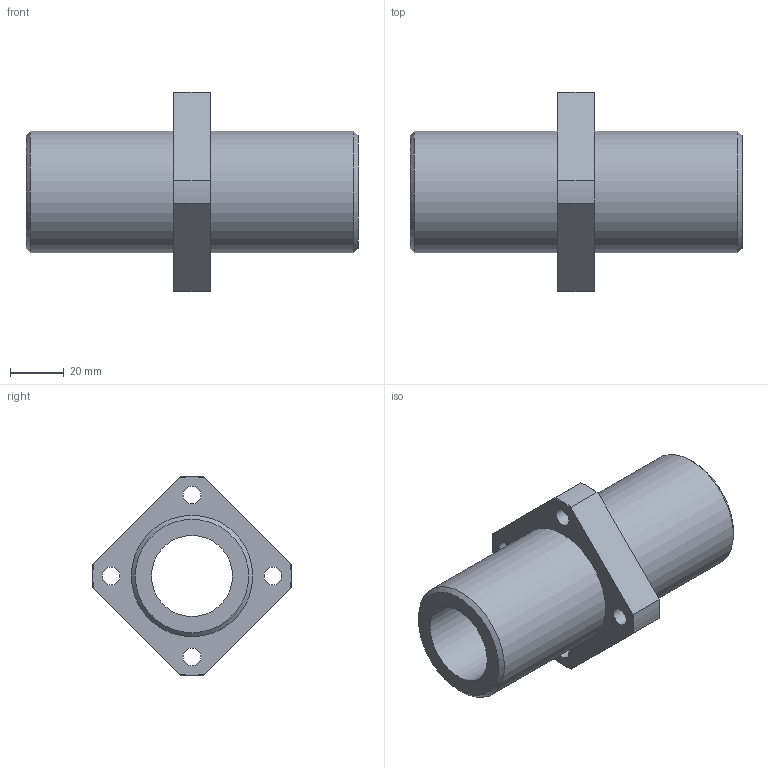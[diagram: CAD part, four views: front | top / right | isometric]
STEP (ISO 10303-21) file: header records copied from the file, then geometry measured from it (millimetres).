
FILE_DESCRIPTION(('STEP AP203'),'1');
FILE_NAME('//192.168.1.1/share/s-4 技術開発/s-4-4_CAD/s-4-4-3_見直し済み/PBC LINEAR修正済み/CFPJ/CFPJ_TOP/CFPJ/CFPJ30.step','2022-03-24T03:59:48',(' '),(' '),'Spatial InterOp 3D',' ',' ');
FILE_SCHEMA(('CONFIG_CONTROL_DESIGN'));
Length unit declared in the file: millimetre
Products named in the file (1): 1
Bounding box: 123 x 73.95 x 73.95 mm (x, y, z)
Volume: 128859.2 mm3; surface area: 36193.6 mm2
Topology: 1 solids, 1 shells, 37 faces, 91 edges, 62 vertices
Faces by surface type: cylinder 15, plane 12, cone 10
Full cylindrical faces by diameter (mm): 6.6 x4, 11 x4, 30 x1, 45 x2
Entity records: 1078 total; most frequent: CARTESIAN_POINT 214, DIRECTION 172, ORIENTED_EDGE 144, AXIS2_PLACEMENT_3D 78, EDGE_CURVE 72, EDGE_LOOP 66, VERTEX_POINT 56, FACE_OUTER_BOUND 48
